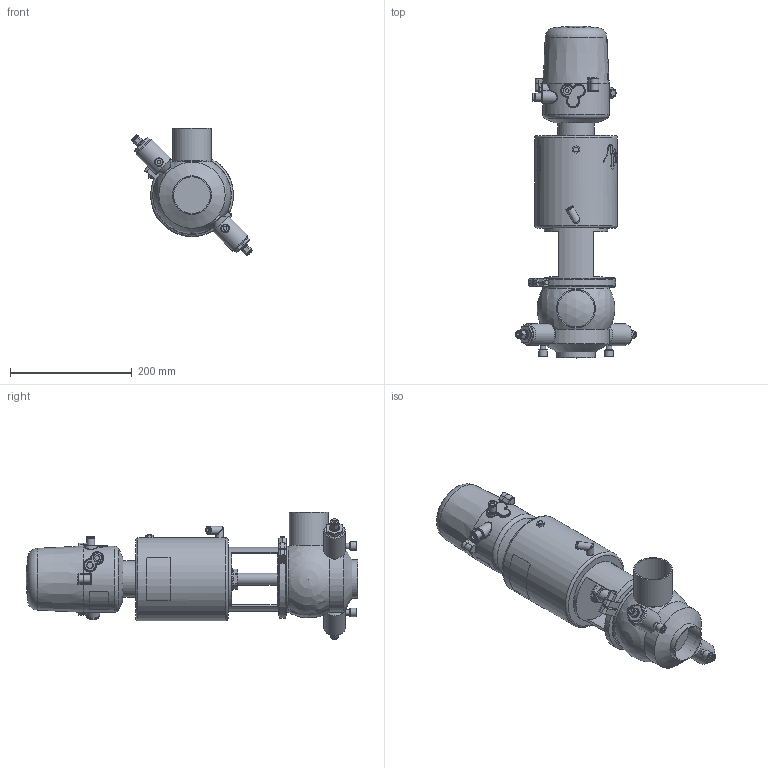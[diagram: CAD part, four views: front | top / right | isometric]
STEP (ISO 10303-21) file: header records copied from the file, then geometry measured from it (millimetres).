
FILE_DESCRIPTION (( 'STEP AP214' ), '1' );
FILE_NAME ('INNOVA D L W OD 2½ T3 AS NC & C-TOP S_10.246.16.0003.STEP', '2024-08-08T09:43:43', ( '' ), ( '' ), 'SwSTEP 2.0', 'SolidWorks 2023', '' );
FILE_SCHEMA (( 'AUTOMOTIVE_DESIGN' ));
Length unit declared in the file: millimetre
Products named in the file (7): 10.426.15.0001_C-TOP S - 1 EV; INNOVA D L W OD 2½ T3 AS NC & C-TOP S_10.246.16.0003; 10.240.15.0014_T3 AS P0; 10.246.15.0001_OD 2½"; 10.240.15.0010_DN 065; 10.240.15.0017_Estàndard; 10.240.15.0001_DN 065
Assembly tree (6 placements, depth 2):
  INNOVA D L W OD 2½ T3 AS NC & C-TOP S_10.246.16.0003
    10.246.15.0001_OD 2½"
    10.240.15.0010_DN 065
    10.240.15.0014_T3 AS P0
    10.240.15.0017_Estàndard
    10.426.15.0001_C-TOP S - 1 EV
    10.240.15.0001_DN 065
Bounding box: 198.84 x 545.5 x 209.42 mm (x, y, z)
Volume: 5172927.1 mm3; surface area: 381693 mm2
Topology: 6 solids, 6 shells, 1195 faces, 2842 edges, 1885 vertices
Faces by surface type: plane 441, cylinder 350, cone 202, bspline 160, torus 36, sphere 6
Full cylindrical faces by diameter (mm): 0.371 x17, 0.512 x16, 0.658 x16, 0.795 x16, 0.94 x15, 1.098 x15, 1.241 x13, 1.382 x13, 1.523 x11, 1.669 x10, 2.201 x1, 4 x2, 5.5 x2, 6 x6, 6.15 x1, 8 x4, 8.5 x1, 9 x2, 10 x3, 10.5 x1, 11 x2, 12 x4, 12.5 x3, 13 x2, 13.5 x2, 14 x4, 15 x2, 16 x1, 17 x3, 20 x3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
Entity records: 60334 total; most frequent: CARTESIAN_POINT 28479, ORIENTED_EDGE 4812, DIRECTION 3997, EDGE_CURVE 2406, VERTEX_POINT 1709, EDGE_LOOP 1691, AXIS2_PLACEMENT_3D 1616, FACE_OUTER_BOUND 1426
